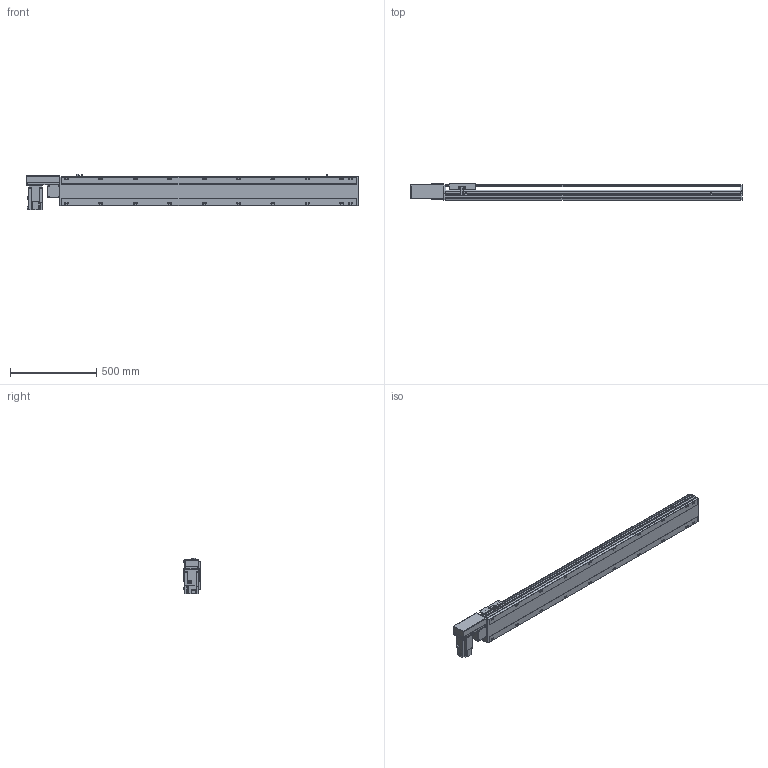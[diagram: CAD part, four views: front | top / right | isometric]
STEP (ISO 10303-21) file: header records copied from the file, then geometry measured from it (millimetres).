
FILE_DESCRIPTION( ( 'STEP AP214' ), '1' );
FILE_NAME( 'x:/temp/worker_4/temp/exporttempdir_2248_269_EsOKj/format_0/PBS170-P40-S1450-R-T75-C1-N(0).stp', '2022-06-07T07:30:40', ( 'License CC BY-ND 4.0' ), ( 'CADENAS' ), ' ', 'PARTsolutions', ' ' );
FILE_SCHEMA( ( 'AUTOMOTIVE_DESIGN { 1 0 10303 214 1 1 1 1 }' ) );
Length unit declared in the file: millimetre
Products named in the file (7): PBS170-P40-S1450-R-T75-C1-N(0); _PBS170-S1450()_body; _PBS170T-R_motors; _T75-p1; _PBS170_sliser; _PBS170_plant; _PBS170_sensor
Assembly tree (8 placements, depth 2):
  PBS170-P40-S1450-R-T75-C1-N(0)
    _PBS170-S1450()_body
    _PBS170T-R_motors
    _T75-p1
    _PBS170_sliser
    _PBS170_plant
    _PBS170_sensor  x3
Bounding box: 1928 x 97 x 205.3 mm (x, y, z)
Volume: 14194067.4 mm3; surface area: 1828093.7 mm2
Topology: 8 solids, 8 shells, 1114 faces, 2955 edges, 1926 vertices
Faces by surface type: plane 699, cylinder 355, cone 50, sphere 8, torus 2
Full cylindrical faces by diameter (mm): 3.242 x4, 4 x2, 4.4 x4, 4.5 x6, 4.917 x4, 6 x9, 6.647 x28, 7 x2, 7.5 x4, 8 x8, 8.5 x20, 10 x4, 10.5 x20, 11 x2, 30 x2, 40 x1, 70 x1
Entity records: 41024 total; most frequent: CARTESIAN_POINT 6557, DIRECTION 5440, ORIENTED_EDGE 5148, EDGE_CURVE 2574, AXIS2_PLACEMENT_3D 1897, VERTEX_POINT 1778, LINE 1646, VECTOR 1646
